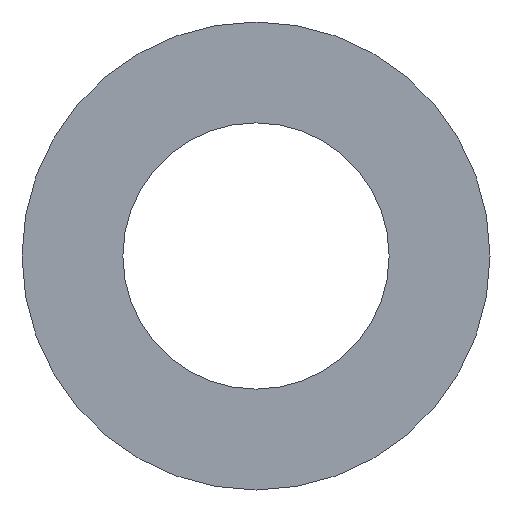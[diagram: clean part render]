
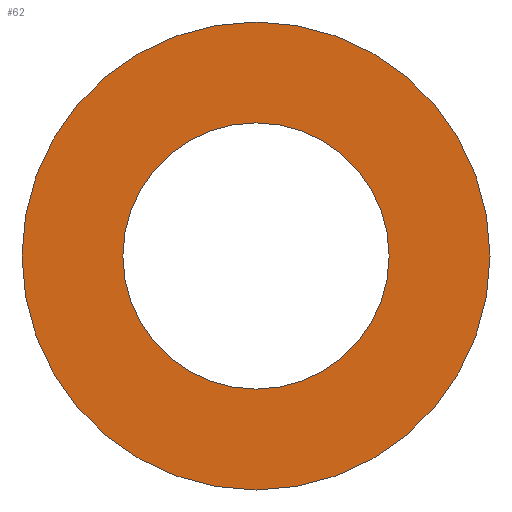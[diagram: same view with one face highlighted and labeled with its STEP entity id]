
A CAD part, front view. The second image highlights one B-rep face of the part: STEP entity #62.
In plain terms, the highlighted planar face has unit normal (0, -1, 0).
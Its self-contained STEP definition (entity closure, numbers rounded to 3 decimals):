
#20=PLANE('',#83);
#26=ORIENTED_EDGE('',*,*,#30,.T.);
#27=ORIENTED_EDGE('',*,*,#32,.F.);
#30=EDGE_CURVE('',#34,#34,#38,.T.);
#32=EDGE_CURVE('',#36,#36,#40,.T.);
#34=VERTEX_POINT('',#106);
#36=VERTEX_POINT('',#111);
#38=CIRCLE('',#78,130.);
#40=CIRCLE('',#81,228.5);
#46=EDGE_LOOP('',(#26));
#47=EDGE_LOOP('',(#27));
#54=FACE_BOUND('',#46,.T.);
#55=FACE_BOUND('',#47,.T.);
#62=ADVANCED_FACE('',(#54,#55),#20,.F.);
#78=AXIS2_PLACEMENT_3D('',#105,#89,#90);
#81=AXIS2_PLACEMENT_3D('',#110,#95,#96);
#83=AXIS2_PLACEMENT_3D('',#114,#99,#100);
#89=DIRECTION('',(0.,1.,0.));
#90=DIRECTION('',(1.,0.,0.));
#95=DIRECTION('',(0.,1.,0.));
#96=DIRECTION('',(1.,0.,0.));
#99=DIRECTION('',(0.,1.,0.));
#100=DIRECTION('',(0.,0.,1.));
#105=CARTESIAN_POINT('',(0.,-1.5,0.));
#106=CARTESIAN_POINT('',(130.,-1.5,0.));
#110=CARTESIAN_POINT('',(0.,-1.5,0.));
#111=CARTESIAN_POINT('',(228.5,-1.5,0.));
#114=CARTESIAN_POINT('',(0.,-1.5,0.));
